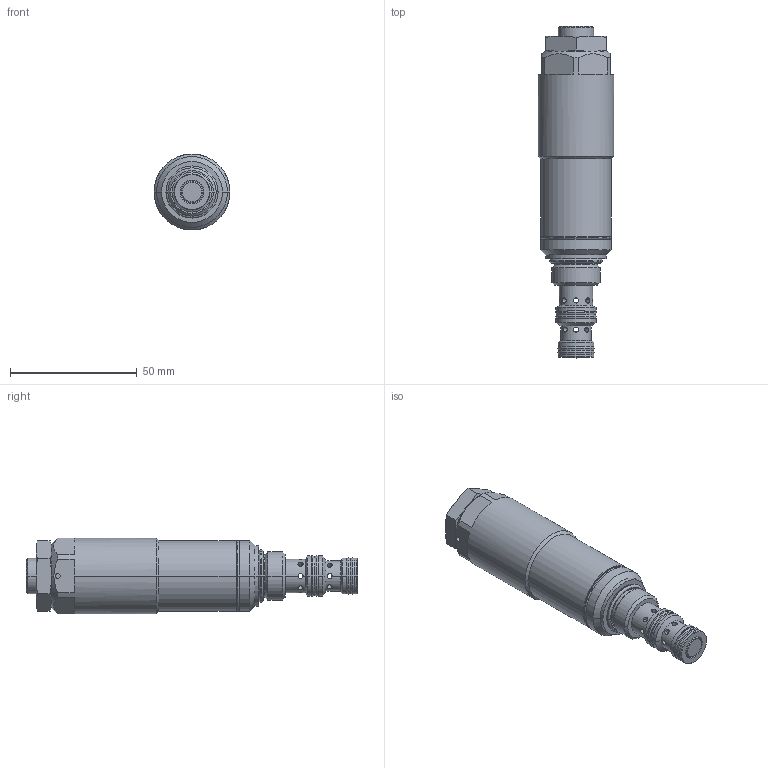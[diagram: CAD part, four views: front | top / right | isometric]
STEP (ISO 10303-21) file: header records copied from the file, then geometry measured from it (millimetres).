
FILE_DESCRIPTION((''),'2;1');
FILE_NAME('SD6H-AY3_ASM','2024-02-01T',('l.soukupova'),(''),'PRO/ENGINEER BY PARAMETRIC TECHNOLOGY CORPORATION, 2015440','PRO/ENGINEER BY PARAMETRIC TECHNOLOGY CORPORATION, 2015440','');
FILE_SCHEMA(('AUTOMOTIVE_DESIGN { 1 0 10303 214 1 1 1 1 }'));
Length unit declared in the file: millimetre
Products named in the file (6): SD6H_A3_2I11_209761; SSA01420118031C0_320004_AF1; SSA01580134031C0_320010_AF1; OR1002600_242171_AF1; ORIA01700_156065_AF0; SD6H-AY3_ASM
Assembly tree (5 placements, depth 2):
  SD6H-AY3_ASM
    SD6H_A3_2I11_209761
    SSA01420118031C0_320004_AF1
    SSA01580134031C0_320010_AF1
    OR1002600_242171_AF1
    ORIA01700_156065_AF0
Bounding box: 30 x 131.15 x 30 mm (x, y, z)
Volume: 63187 mm3; surface area: 13885.2 mm2
Topology: 5 solids, 6 shells, 219 faces, 500 edges, 308 vertices
Faces by surface type: cylinder 84, cone 70, plane 47, torus 18
Entity records: 11887 total; most frequent: CARTESIAN_POINT 3269, DIRECTION 1142, ORIENTED_EDGE 956, PRESENTATION_STYLE_ASSIGNMENT 660, STYLED_ITEM 521, CURVE_STYLE 515, EDGE_CURVE 480, AXIS2_PLACEMENT_3D 467
